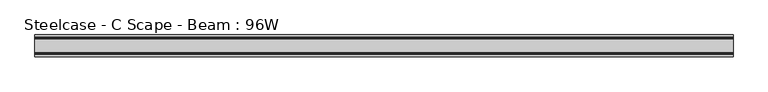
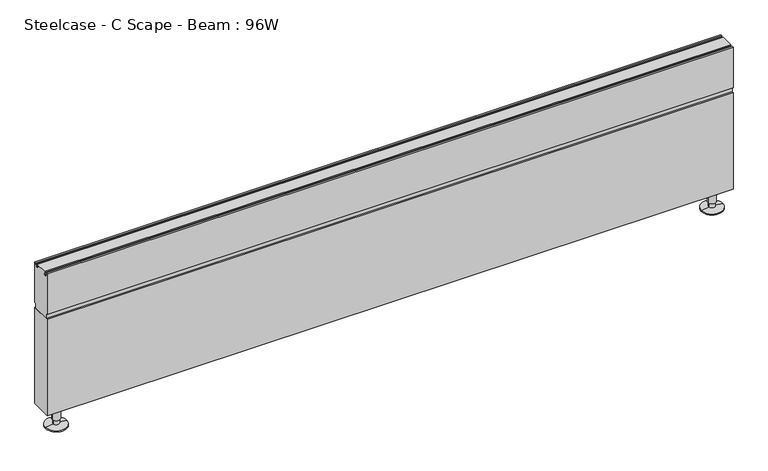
"""IFC4 building model written with IfcOpenShell, lengths in millimetres: furniture geometry, Steelcase - C Scape - Beam : 96W."""

from ifc_helpers import new_model, si_unit, frame, origin, place, context, project, spatial, polyline, circle_curve, outline, extrude, source, transform, mapped, element, save
from ifc_brep_helpers import plane_surface, cylinder_surface, revolved_surface, advanced_brep


def steelcase_c_scape_beam_96w_9b9063d6(model_context):
    return source(origin(), model_context, "Body", "SolidModel", [
        advanced_brep(
        [(2398.6377849, -38.1, 25.4), (2371.2993351, -38.1, 25.4), (2369.52536, -38.1, 76.2), (2400.41176, -38.1, 76.2), (2395.9056589, -38.1, 25.4), (2374.0314611, -38.1, 25.4), (2395.9056589, -38.1, 8.099626), (2374.0314611, -38.1, 8.099626), (2423.0793277, -38.1, 4.2806159), (2346.8577923, -38.1, 4.2806159), (2423.0793277, -38.1, 0.0), (2346.8577923, -38.1, 0.0), (2384.96856, -38.1, 0.0), (2384.96856, -38.1, 76.2)],
        [
            (0, 1, circle_curve(frame((2384.96856, -38.1, 25.4), z_axis=(0.0, 0.0, 1.0), x_axis=(-1.0, 0.0, 0.0)), 13.6692249)),
            (1, 2),
            (2, 3, circle_curve(frame((2384.96856, -38.1, 76.2), z_axis=(0.0, 0.0, -1.0), x_axis=(-1.0, 0.0, 0.0)), 15.4432)),
            (3, 0),
            (1, 0, circle_curve(frame((2384.96856, -38.1, 25.4), z_axis=(0.0, 0.0, 1.0), x_axis=(-1.0, 0.0, 0.0)), 13.6692249)),
            (3, 2, circle_curve(frame((2384.96856, -38.1, 76.2), z_axis=(0.0, 0.0, -1.0), x_axis=(-1.0, 0.0, 0.0)), 15.4432)),
            (4, 5, circle_curve(frame((2384.96856, -38.1, 25.4), z_axis=(0.0, 0.0, 1.0), x_axis=(-1.0, 0.0, 0.0)), 10.9370989)),
            (5, 1),
            (0, 4),
            (5, 4, circle_curve(frame((2384.96856, -38.1, 25.4), z_axis=(0.0, 0.0, 1.0), x_axis=(-1.0, 0.0, 0.0)), 10.9370989)),
            (6, 7, circle_curve(frame((2384.96856, -38.1, 8.099626), z_axis=(0.0, 0.0, 1.0), x_axis=(-1.0, 0.0, 0.0)), 10.9370989)),
            (7, 5),
            (4, 6),
            (7, 6, circle_curve(frame((2384.96856, -38.1, 8.099626), z_axis=(0.0, 0.0, 1.0), x_axis=(-1.0, 0.0, 0.0)), 10.9370989)),
            (8, 9, circle_curve(frame((2384.96856, -38.1, 4.2806159), z_axis=(0.0, 0.0, 1.0), x_axis=(-1.0, 0.0, 0.0)), 38.1107677)),
            (9, 7),
            (6, 8),
            (9, 8, circle_curve(frame((2384.96856, -38.1, 4.2806159), z_axis=(0.0, 0.0, 1.0), x_axis=(-1.0, 0.0, 0.0)), 38.1107677)),
            (10, 11, circle_curve(frame((2384.96856, -38.1, 0.0), z_axis=(0.0, 0.0, 1.0), x_axis=(-1.0, 0.0, 0.0)), 38.1107677)),
            (11, 9),
            (8, 10),
            (11, 10, circle_curve(frame((2384.96856, -38.1, 0.0), z_axis=(0.0, 0.0, 1.0), x_axis=(-1.0, 0.0, 0.0)), 38.1107677)),
            (12, 11),
            (10, 12),
            (2, 13),
            (13, 3),
        ],
        [
            revolved_surface(polyline([(2369.52536, -38.1, 76.2), (2371.2993351, -38.1, 25.4)]), (2384.96856, -38.1, 76.2), (0.0, 0.0, -1.0)),
            plane_surface(frame((2384.96856, -38.1, 25.4), z_axis=(0.0, 0.0, -1.0), x_axis=(-1.0, 0.0, 0.0))),
            cylinder_surface(frame((2384.96856, -38.1, 76.2), z_axis=(0.0, 0.0, -1.0), x_axis=(-1.0, 0.0, 0.0)), 10.9370989),
            revolved_surface(polyline([(2374.0314611, -38.1, 8.099626), (2346.8577923, -38.1, 4.2806159)]), (2384.96856, -38.1, 76.2), (0.0, 0.0, -1.0)),
            cylinder_surface(frame((2384.96856, -38.1, 76.2), z_axis=(0.0, 0.0, -1.0), x_axis=(-1.0, 0.0, 0.0)), 38.1107677),
            plane_surface(frame((2384.96856, -38.1, 0.0), z_axis=(0.0, 0.0, -1.0), x_axis=(-1.0, 0.0, 0.0))),
            plane_surface(frame((2384.96856, -38.1, 76.2), z_axis=(0.0, 0.0, 1.0), x_axis=(-1.0, 0.0, 0.0))),
        ],
        [
            (0, [[1, 2, 3, 4]]),
            (0, [[5, -4, 6, -2]]),
            (1, [[7, 8, -1, 9]]),
            (1, [[10, -9, -5, -8]]),
            (2, [[11, 12, -7, 13]]),
            (2, [[14, -13, -10, -12]]),
            (3, [[15, 16, -11, 17]]),
            (3, [[18, -17, -14, -16]]),
            (4, [[19, 20, -15, 21]]),
            (4, [[22, -21, -18, -20]]),
            (5, [[23, -19, 24]]),
            (5, [[-24, -22, -23]]),
            (6, [[-3, 25, 26]]),
            (6, [[-6, -26, -25]]),
        ],
    ),
        advanced_brep(
        [(67.1006649, -38.1, 25.4), (39.7622151, -38.1, 25.4), (37.98824, -38.1, 76.2), (68.87464, -38.1, 76.2), (64.3685389, -38.1, 25.4), (42.4943411, -38.1, 25.4), (64.3685389, -38.1, 8.099626), (42.4943411, -38.1, 8.099626), (91.5422077, -38.1, 4.2806159), (15.3206723, -38.1, 4.2806159), (91.5422077, -38.1, 0.0), (15.3206723, -38.1, 0.0), (53.43144, -38.1, 0.0), (53.43144, -38.1, 76.2)],
        [
            (0, 1, circle_curve(frame((53.43144, -38.1, 25.4), z_axis=(0.0, 0.0, 1.0), x_axis=(-1.0, 0.0, 0.0)), 13.6692249)),
            (1, 2),
            (2, 3, circle_curve(frame((53.43144, -38.1, 76.2), z_axis=(0.0, 0.0, -1.0), x_axis=(-1.0, 0.0, 0.0)), 15.4432)),
            (3, 0),
            (1, 0, circle_curve(frame((53.43144, -38.1, 25.4), z_axis=(0.0, 0.0, 1.0), x_axis=(-1.0, 0.0, 0.0)), 13.6692249)),
            (3, 2, circle_curve(frame((53.43144, -38.1, 76.2), z_axis=(0.0, 0.0, -1.0), x_axis=(-1.0, 0.0, 0.0)), 15.4432)),
            (4, 5, circle_curve(frame((53.43144, -38.1, 25.4), z_axis=(0.0, 0.0, 1.0), x_axis=(-1.0, 0.0, 0.0)), 10.9370989)),
            (5, 1),
            (0, 4),
            (5, 4, circle_curve(frame((53.43144, -38.1, 25.4), z_axis=(0.0, 0.0, 1.0), x_axis=(-1.0, 0.0, 0.0)), 10.9370989)),
            (6, 7, circle_curve(frame((53.43144, -38.1, 8.099626), z_axis=(0.0, 0.0, 1.0), x_axis=(-1.0, 0.0, 0.0)), 10.9370989)),
            (7, 5),
            (4, 6),
            (7, 6, circle_curve(frame((53.43144, -38.1, 8.099626), z_axis=(0.0, 0.0, 1.0), x_axis=(-1.0, 0.0, 0.0)), 10.9370989)),
            (8, 9, circle_curve(frame((53.43144, -38.1, 4.2806159), z_axis=(0.0, 0.0, 1.0), x_axis=(-1.0, 0.0, 0.0)), 38.1107677)),
            (9, 7),
            (6, 8),
            (9, 8, circle_curve(frame((53.43144, -38.1, 4.2806159), z_axis=(0.0, 0.0, 1.0), x_axis=(-1.0, 0.0, 0.0)), 38.1107677)),
            (10, 11, circle_curve(frame((53.43144, -38.1, 0.0), z_axis=(0.0, 0.0, 1.0), x_axis=(-1.0, 0.0, 0.0)), 38.1107677)),
            (11, 9),
            (8, 10),
            (11, 10, circle_curve(frame((53.43144, -38.1, 0.0), z_axis=(0.0, 0.0, 1.0), x_axis=(-1.0, 0.0, 0.0)), 38.1107677)),
            (12, 11),
            (10, 12),
            (2, 13),
            (13, 3),
        ],
        [
            revolved_surface(polyline([(37.98824, -38.1, 76.2), (39.7622151, -38.1, 25.4)]), (53.43144, -38.1, 76.2), (0.0, 0.0, -1.0)),
            plane_surface(frame((53.43144, -38.1, 25.4), z_axis=(0.0, 0.0, -1.0), x_axis=(-1.0, 0.0, 0.0))),
            cylinder_surface(frame((53.43144, -38.1, 76.2), z_axis=(0.0, 0.0, -1.0), x_axis=(-1.0, 0.0, 0.0)), 10.9370989),
            revolved_surface(polyline([(42.4943411, -38.1, 8.099626), (15.3206723, -38.1, 4.2806159)]), (53.43144, -38.1, 76.2), (0.0, 0.0, -1.0)),
            cylinder_surface(frame((53.43144, -38.1, 76.2), z_axis=(0.0, 0.0, -1.0), x_axis=(-1.0, 0.0, 0.0)), 38.1107677),
            plane_surface(frame((53.43144, -38.1, 0.0), z_axis=(0.0, 0.0, -1.0), x_axis=(-1.0, 0.0, 0.0))),
            plane_surface(frame((53.43144, -38.1, 76.2), z_axis=(0.0, 0.0, 1.0), x_axis=(-1.0, 0.0, 0.0))),
        ],
        [
            (0, [[1, 2, 3, 4]]),
            (0, [[5, -4, 6, -2]]),
            (1, [[7, 8, -1, 9]]),
            (1, [[10, -9, -5, -8]]),
            (2, [[11, 12, -7, 13]]),
            (2, [[14, -13, -10, -12]]),
            (3, [[15, 16, -11, 17]]),
            (3, [[18, -17, -14, -16]]),
            (4, [[19, 20, -15, 21]]),
            (4, [[22, -21, -18, -20]]),
            (5, [[23, -19, 24]]),
            (5, [[-24, -22, -23]]),
            (6, [[-3, 25, 26]]),
            (6, [[-6, -26, -25]]),
        ],
    ),
        extrude(outline(polyline([(2438.4, 0.0), (2438.4, -76.2), (0.0, -76.2), (0.0, 0.0), (2438.4, 0.0)])), frame((0.0, 0.0, 76.2), z_axis=(0.0, 0.0, 1.0), x_axis=(1.0, 0.0, 0.0)), (0.0, 0.0, 1.0), 361.95),
        extrude(outline(polyline([(-60.3249516, 609.6), (-15.8749758, 609.6), (-15.8749758, 605.7899855), (-19.6849903, 605.7899855), (-19.6849903, 601.9800073), (-15.3670126, 599.4869908), (-14.2747828, 599.4869908), (-14.2747828, 597.1539937), (-7.924807, 597.1539937), (-7.924807, 599.4435342), (-6.8325771, 599.4435342), (-2.5399612, 601.9800073), (-2.5399612, 605.7899855), (-6.3499758, 605.7899855), (-6.3499758, 609.6), (0.0, 609.6), (0.0, 457.2), (-6.3499758, 457.2), (-6.3499758, 438.15), (-69.8499516, 438.15), (-69.8499516, 457.2), (-76.2, 457.2), (-76.2, 609.6), (-69.8499516, 609.6), (-69.8499516, 605.7899855), (-73.6599661, 605.7899855), (-73.6599661, 601.9800073), (-69.3419884, 599.4869908), (-68.2497585, 599.4869908), (-68.2497585, 597.1539937), (-61.8997828, 597.1539937), (-61.8997828, 599.4435342), (-60.8075529, 599.4435342), (-56.514937, 601.9800073), (-56.514937, 605.7899855), (-60.3249516, 605.7899855), (-60.3249516, 609.6)])), frame((0.0, 0.0, 0.0), z_axis=(1.0, 0.0, 0.0), x_axis=(0.0, 1.0, 0.0)), (0.0, 0.0, 1.0), 2438.4),
    ])


if __name__ == "__main__":
    model = new_model("IFC4")
    model_context = context("Model", 3, world=origin())
    ifc_project = project(units=[si_unit("LENGTHUNIT", "METRE", prefix="MILLI")], contexts=[model_context])
    site = spatial("IfcSite", under=ifc_project)
    building = spatial("IfcBuilding", under=site)
    placement = place(None, origin())
    steelcase_c_scape_beam_96w_shape = steelcase_c_scape_beam_96w_9b9063d6(model_context)
    element("IfcFurniture", 1, ObjectType="Steelcase - C Scape - Beam : 96W", at=placement, inside=building, context=model_context, shape_type="MappedRepresentation", body=[
        mapped(steelcase_c_scape_beam_96w_shape, transform((0.0, 0.0, 0.0), x_axis=(1.0, 0.0, 0.0), y_axis=(0.0, 1.0, 0.0), z_axis=(0.0, 0.0, 1.0))),
    ])
    save(model, "model.ifc")
